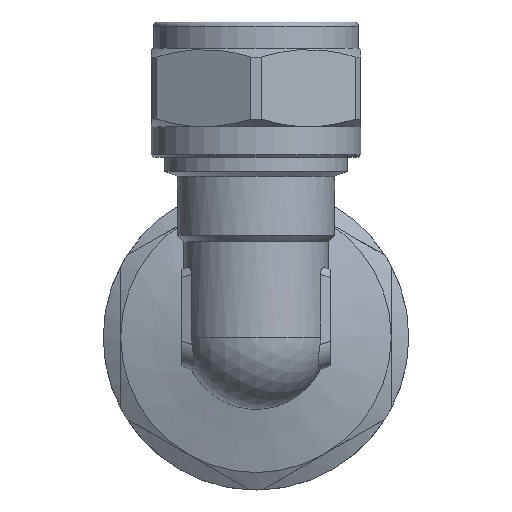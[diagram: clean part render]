
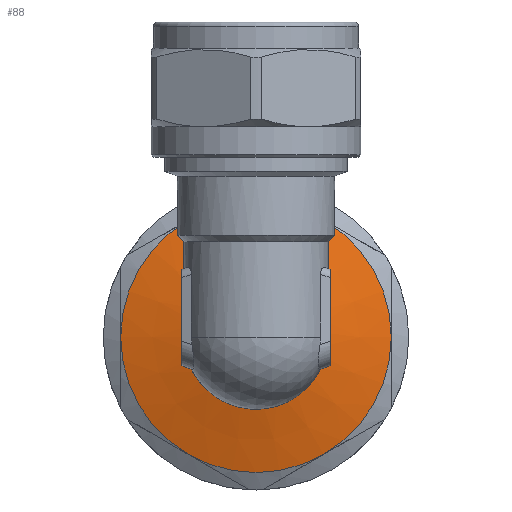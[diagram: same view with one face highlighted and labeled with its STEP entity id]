
A CAD part, front view. The second image highlights one B-rep face of the part: STEP entity #88.
In plain terms, the highlighted conical face has half-angle 75 degrees and reference radius 11.875 mm.
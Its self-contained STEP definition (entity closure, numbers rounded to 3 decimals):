
#88=ADVANCED_FACE('',(#740,#742),#744,.T.);
#740=FACE_BOUND('',#741,.T.);
#741=EDGE_LOOP('',(#3826,#3827,#3828,#3829,#3830));
#742=FACE_OUTER_BOUND('',#743,.T.);
#743=EDGE_LOOP('',(#3831));
#744=CONICAL_SURFACE('',#745,11.875,1.309);
#745=AXIS2_PLACEMENT_3D('',#746,#747,#748);
#746=CARTESIAN_POINT('',(0.,12.029,0.));
#747=DIRECTION('',(0.,1.,0.));
#748=DIRECTION('',(-1.,0.,0.));
#3826=ORIENTED_EDGE('',*,*,#6786,.T.);
#3827=ORIENTED_EDGE('',*,*,#6787,.T.);
#3828=ORIENTED_EDGE('',*,*,#6770,.F.);
#3829=ORIENTED_EDGE('',*,*,#6764,.F.);
#3830=ORIENTED_EDGE('',*,*,#6776,.F.);
#3831=ORIENTED_EDGE('',*,*,#6788,.T.);
#6764=EDGE_CURVE('',#8003,#8004,#8005,.F.);
#6770=EDGE_CURVE('',#8004,#8014,#8015,.F.);
#6776=EDGE_CURVE('',#8023,#8003,#8025,.F.);
#6786=EDGE_CURVE('',#8023,#8043,#8044,.T.);
#6787=EDGE_CURVE('',#8043,#8014,#8045,.T.);
#6788=EDGE_CURVE('',#8046,#8046,#8047,.F.);
#8003=VERTEX_POINT('',#10120);
#8004=VERTEX_POINT('',#10121);
#8005=B_SPLINE_CURVE_WITH_KNOTS('',3,
(#10122,#10123,#10124,#10125,#10126,#10127,#10128,#10129,#10130,#10131,#10132,#10133,
#10134,#10135,#10136,#10137,#10138,#10139,#10140,#10141,#10142),
.UNSPECIFIED.,.F.,.F.,
(4,1,1,1,1,1,1,1,1,1,1,1,1,1,1,1,1,1,4),
(0.,0.063,0.125,0.188,0.25,0.25,
0.313,0.375,0.438,0.5,0.562,
0.625,0.687,0.75,0.75,0.812,
0.875,0.937,1.),
.UNSPECIFIED.);
#8014=VERTEX_POINT('',#10189);
#8015=B_SPLINE_CURVE_WITH_KNOTS('',3,
(#10190,#10191,#10192,#10193,#10194,#10195,#10196,#10197,#10198,#10199,#10200,#10201,
#10202,#10203,#10204,#10205,#10206,#10207,#10208,#10209,#10210,#10211,#10212,#10213,
#10214,#10215,#10216,#10217,#10218,#10219,#10220,#10221),
.UNSPECIFIED.,.F.,.F.,
(4,1,1,1,1,1,1,1,1,1,1,1,1,1,1,1,1,1,1,1,1,1,1,1,1,1,1,1,1,4),
(0.,0.041,0.082,0.123,0.163,0.203,
0.242,0.28,0.316,0.353,0.388,
0.422,0.455,0.487,0.517,0.546,
0.575,0.602,0.632,0.665,0.711,
0.757,0.803,0.835,0.864,0.891,
0.918,0.945,0.972,1.),
.UNSPECIFIED.);
#8023=VERTEX_POINT('',#10267);
#8025=B_SPLINE_CURVE_WITH_KNOTS('',3,
(#10271,#10272,#10273,#10274,#10275,#10276,#10277,#10278,#10279,#10280,#10281,#10282,
#10283,#10284,#10285,#10286,#10287,#10288,#10289,#10290,#10291,#10292,#10293,#10294,
#10295,#10296,#10297,#10298,#10299,#10300,#10301),
.UNSPECIFIED.,.F.,.F.,
(4,1,1,1,1,1,1,1,1,1,1,1,1,1,1,1,1,1,1,1,1,1,1,1,1,1,1,1,4),
(0.,0.023,0.047,0.07,0.094,
0.118,0.156,0.21,0.268,0.316,
0.351,0.384,0.415,0.446,0.478,
0.511,0.545,0.58,0.615,0.652,
0.689,0.727,0.765,0.803,0.842,
0.881,0.92,0.96,1.),
.UNSPECIFIED.);
#8043=VERTEX_POINT('',#10346);
#8044=CIRCLE('',#10347,8.25);
#8045=CIRCLE('',#10351,8.25);
#8046=VERTEX_POINT('',#10355);
#8047=CIRCLE('',#10356,15.5);
#10120=CARTESIAN_POINT('',(1.25,12.48,13.5));
#10121=CARTESIAN_POINT('',(-1.25,12.48,13.5));
#10122=CARTESIAN_POINT('',(-1.25,12.48,13.5));
#10123=CARTESIAN_POINT('',(-1.198,12.478,13.5));
#10124=CARTESIAN_POINT('',(-1.094,12.476,13.5));
#10125=CARTESIAN_POINT('',(-0.937,12.473,13.5));
#10126=CARTESIAN_POINT('',(-0.781,12.47,13.5));
#10127=CARTESIAN_POINT('',(-0.676,12.469,13.5));
#10128=CARTESIAN_POINT('',(-0.572,12.467,13.5));
#10129=CARTESIAN_POINT('',(-0.468,12.466,13.5));
#10130=CARTESIAN_POINT('',(-0.312,12.465,13.5));
#10131=CARTESIAN_POINT('',(-0.156,12.464,13.5));
#10132=CARTESIAN_POINT('',(0.,12.464,13.5));
#10133=CARTESIAN_POINT('',(0.156,12.464,13.5));
#10134=CARTESIAN_POINT('',(0.312,12.465,13.5));
#10135=CARTESIAN_POINT('',(0.468,12.466,13.5));
#10136=CARTESIAN_POINT('',(0.572,12.467,13.5));
#10137=CARTESIAN_POINT('',(0.676,12.469,13.5));
#10138=CARTESIAN_POINT('',(0.781,12.47,13.5));
#10139=CARTESIAN_POINT('',(0.937,12.473,13.5));
#10140=CARTESIAN_POINT('',(1.094,12.476,13.5));
#10141=CARTESIAN_POINT('',(1.198,12.478,13.5));
#10142=CARTESIAN_POINT('',(1.25,12.48,13.5));
#10189=CARTESIAN_POINT('',(-6.982,11.057,4.395));
#10190=CARTESIAN_POINT('',(-6.982,11.057,4.395));
#10191=CARTESIAN_POINT('',(-6.902,11.057,4.521));
#10192=CARTESIAN_POINT('',(-6.744,11.06,4.773));
#10193=CARTESIAN_POINT('',(-6.507,11.069,5.15));
#10194=CARTESIAN_POINT('',(-6.271,11.085,5.525));
#10195=CARTESIAN_POINT('',(-6.038,11.107,5.895));
#10196=CARTESIAN_POINT('',(-5.809,11.134,6.258));
#10197=CARTESIAN_POINT('',(-5.585,11.165,6.614));
#10198=CARTESIAN_POINT('',(-5.367,11.201,6.96));
#10199=CARTESIAN_POINT('',(-5.153,11.24,7.3));
#10200=CARTESIAN_POINT('',(-4.944,11.283,7.631));
#10201=CARTESIAN_POINT('',(-4.741,11.327,7.954));
#10202=CARTESIAN_POINT('',(-4.546,11.374,8.264));
#10203=CARTESIAN_POINT('',(-4.358,11.421,8.564));
#10204=CARTESIAN_POINT('',(-4.176,11.469,8.851));
#10205=CARTESIAN_POINT('',(-4.002,11.517,9.129));
#10206=CARTESIAN_POINT('',(-3.834,11.566,9.395));
#10207=CARTESIAN_POINT('',(-3.671,11.614,9.654));
#10208=CARTESIAN_POINT('',(-3.507,11.664,9.914));
#10209=CARTESIAN_POINT('',(-3.336,11.719,10.187));
#10210=CARTESIAN_POINT('',(-3.13,11.786,10.514));
#10211=CARTESIAN_POINT('',(-2.893,11.865,10.89));
#10212=CARTESIAN_POINT('',(-2.631,11.957,11.306));
#10213=CARTESIAN_POINT('',(-2.396,12.041,11.679));
#10214=CARTESIAN_POINT('',(-2.193,12.116,12.002));
#10215=CARTESIAN_POINT('',(-2.027,12.178,12.266));
#10216=CARTESIAN_POINT('',(-1.869,12.238,12.517));
#10217=CARTESIAN_POINT('',(-1.716,12.297,12.761));
#10218=CARTESIAN_POINT('',(-1.561,12.357,13.006));
#10219=CARTESIAN_POINT('',(-1.406,12.418,13.253));
#10220=CARTESIAN_POINT('',(-1.302,12.459,13.417));
#10221=CARTESIAN_POINT('',(-1.25,12.48,13.5));
#10267=CARTESIAN_POINT('',(6.982,11.057,4.395));
#10271=CARTESIAN_POINT('',(1.25,12.48,13.5));
#10272=CARTESIAN_POINT('',(1.294,12.462,13.43));
#10273=CARTESIAN_POINT('',(1.382,12.427,13.291));
#10274=CARTESIAN_POINT('',(1.514,12.375,13.081));
#10275=CARTESIAN_POINT('',(1.647,12.323,12.869));
#10276=CARTESIAN_POINT('',(1.782,12.271,12.655));
#10277=CARTESIAN_POINT('',(1.945,12.209,12.396));
#10278=CARTESIAN_POINT('',(2.165,12.126,12.047));
#10279=CARTESIAN_POINT('',(2.45,12.021,11.594));
#10280=CARTESIAN_POINT('',(2.754,11.914,11.112));
#10281=CARTESIAN_POINT('',(3.022,11.822,10.686));
#10282=CARTESIAN_POINT('',(3.242,11.749,10.336));
#10283=CARTESIAN_POINT('',(3.429,11.689,10.039));
#10284=CARTESIAN_POINT('',(3.609,11.633,9.753));
#10285=CARTESIAN_POINT('',(3.788,11.579,9.468));
#10286=CARTESIAN_POINT('',(3.972,11.526,9.176));
#10287=CARTESIAN_POINT('',(4.161,11.473,8.875));
#10288=CARTESIAN_POINT('',(4.356,11.421,8.566));
#10289=CARTESIAN_POINT('',(4.556,11.371,8.249));
#10290=CARTESIAN_POINT('',(4.761,11.323,7.923));
#10291=CARTESIAN_POINT('',(4.971,11.277,7.59));
#10292=CARTESIAN_POINT('',(5.184,11.234,7.251));
#10293=CARTESIAN_POINT('',(5.401,11.195,6.906));
#10294=CARTESIAN_POINT('',(5.62,11.16,6.558));
#10295=CARTESIAN_POINT('',(5.842,11.13,6.206));
#10296=CARTESIAN_POINT('',(6.066,11.104,5.849));
#10297=CARTESIAN_POINT('',(6.293,11.083,5.489));
#10298=CARTESIAN_POINT('',(6.521,11.068,5.127));
#10299=CARTESIAN_POINT('',(6.751,11.059,4.762));
#10300=CARTESIAN_POINT('',(6.905,11.057,4.518));
#10301=CARTESIAN_POINT('',(6.982,11.057,4.395));
#10346=CARTESIAN_POINT('',(-8.25,11.057,0.));
#10347=AXIS2_PLACEMENT_3D('',#10348,#10349,#10350);
#10348=CARTESIAN_POINT('',(0.,11.057,0.));
#10349=DIRECTION('',(0.,1.,0.));
#10350=DIRECTION('',(0.846,0.,0.533));
#10351=AXIS2_PLACEMENT_3D('',#10352,#10353,#10354);
#10352=CARTESIAN_POINT('',(0.,11.057,0.));
#10353=DIRECTION('',(0.,1.,0.));
#10354=DIRECTION('',(-1.,0.,0.));
#10355=CARTESIAN_POINT('',(-15.5,13.,0.));
#10356=AXIS2_PLACEMENT_3D('',#10357,#10358,#10359);
#10357=CARTESIAN_POINT('',(0.,13.,0.));
#10358=DIRECTION('',(0.,1.,0.));
#10359=DIRECTION('',(-1.,0.,0.));
